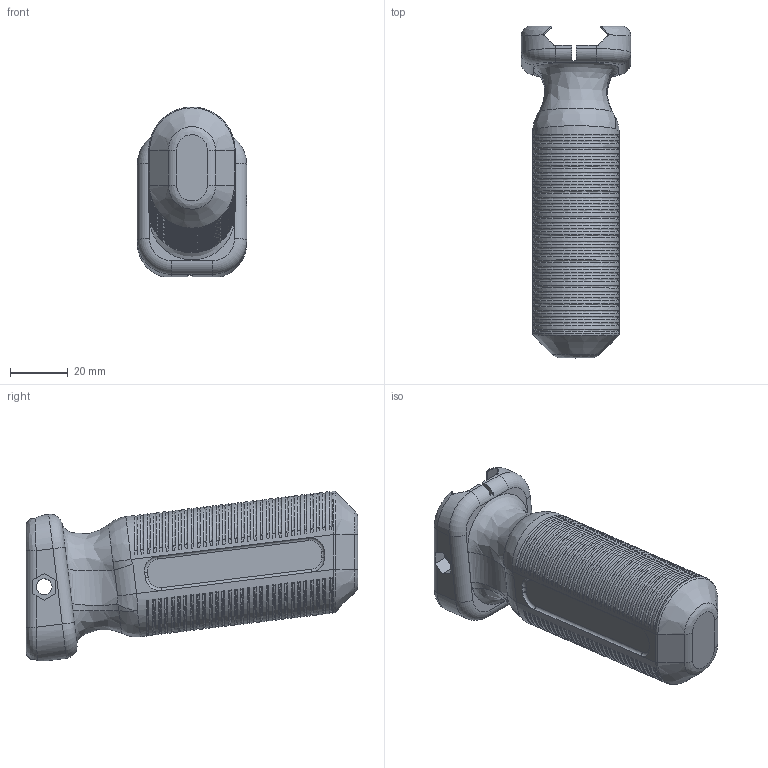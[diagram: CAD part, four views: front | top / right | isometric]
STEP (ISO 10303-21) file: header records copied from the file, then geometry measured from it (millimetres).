
FILE_DESCRIPTION(/* description */ (''),/* implementation_level */ '2;1');
FILE_NAME(/* name */ '//vboxsvr/bigsql-win-testing/CAD/DD2-GIT/freeman1337/ar15-foregrip-accessories-pack/STEP/foregrip-picc-v2-freeman1337.step',/* time_stamp */ '2021-04-06T11:59:39-07:00',/* author */ (''),/* organization */ (''),/* preprocessor_version */ 'ST-DEVELOPER v18.1',/* originating_system */ 'Autodesk Translation Framework v9.10.0.1330',/* authorisation */ '');
FILE_SCHEMA (('AUTOMOTIVE_DESIGN { 1 0 10303 214 3 1 1 }'));
Length unit declared in the file: millimetre
Products named in the file (1): Foregrip-picc-complete-v2
Bounding box: 38 x 115.14 x 58.94 mm (x, y, z)
Volume: 114408.2 mm3; surface area: 19076 mm2
Topology: 1 solids, 1 shells, 534 faces, 1366 edges, 835 vertices
Faces by surface type: cylinder 227, bspline 190, plane 101, torus 16
Full cylindrical faces by diameter (mm): 5.5 x2, 9.75 x1
Entity records: 29555 total; most frequent: CARTESIAN_POINT 18824, ORIENTED_EDGE 2612, DIRECTION 1457, EDGE_CURVE 1306, VERTEX_POINT 835, B_SPLINE_CURVE_WITH_KNOTS 734, EDGE_LOOP 599, AXIS2_PLACEMENT_3D 540
